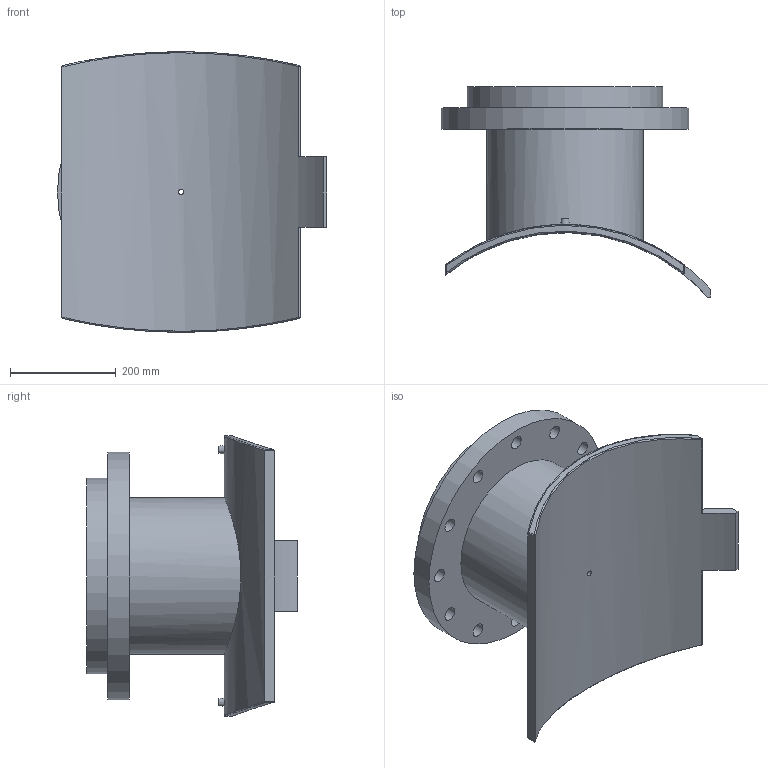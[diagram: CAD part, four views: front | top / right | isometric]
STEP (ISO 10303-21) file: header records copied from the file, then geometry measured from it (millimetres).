
FILE_DESCRIPTION(/* description */ ('PLASSON FLANGED BRANCH SADDLE 710X300'),/* implementation_level */ '2;1');
FILE_NAME(/* name */ 'C:\Dropbox\KIMPROJECTS-Inventor 2019\99-16-3568-Processing\ElectroFusion Fittings\495904_495903\stp\495903710300T.stp',/* time_stamp */ '2024-04-03T21:05:04+02:00',/* author */ ('KIM'),/* organization */ (''),/* preprocessor_version */ 'ST-DEVELOPER v17.2',/* originating_system */ 'Autodesk Inventor 2019',/* authorisation */ '');
FILE_SCHEMA (('AUTOMOTIVE_DESIGN { 1 0 10303 214 3 1 1 }'));
Length unit declared in the file: millimetre
Products named in the file (1): 495903710300T
Bounding box: 508.5 x 397.46 x 529.98 mm (x, y, z)
Volume: 13900293.4 mm3; surface area: 1300813.3 mm2
Topology: 1 solids, 1 shells, 62 faces, 163 edges, 126 vertices
Faces by surface type: cylinder 35, plane 17, sphere 4, bspline 4, cone 2
Full cylindrical faces by diameter (mm): 4 x2, 10 x2, 10.4 x1, 16 x1, 26 x12, 257 x1, 296 x1, 370 x1, 467 x1
Entity records: 2598 total; most frequent: CARTESIAN_POINT 970, DIRECTION 325, ORIENTED_EDGE 298, EDGE_CURVE 149, AXIS2_PLACEMENT_3D 137, VERTEX_POINT 100, EDGE_LOOP 99, CIRCLE 78
